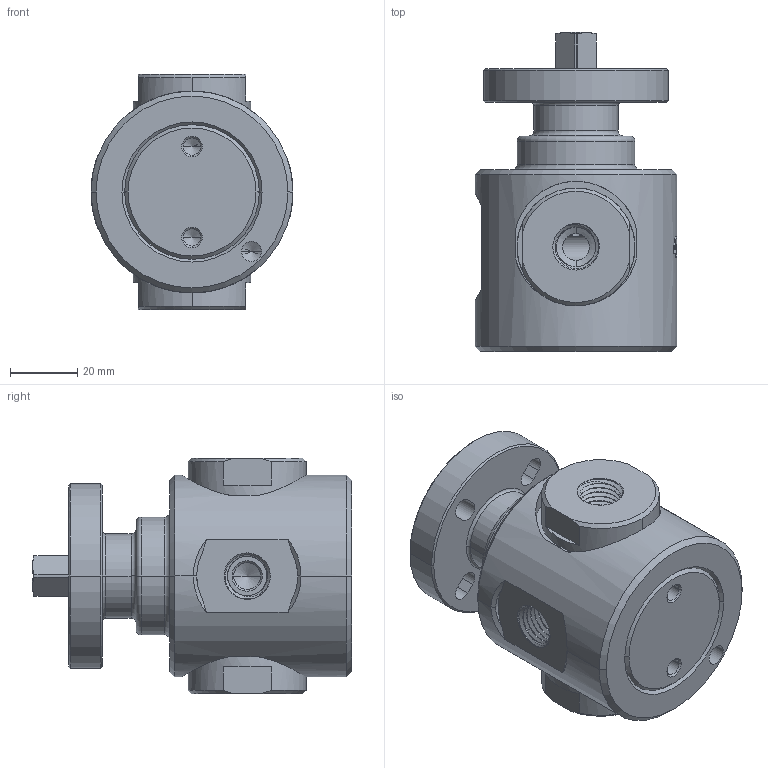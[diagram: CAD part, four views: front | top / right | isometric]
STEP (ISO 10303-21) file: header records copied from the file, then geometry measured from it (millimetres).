
FILE_DESCRIPTION((''),'2;1');
FILE_NAME('283001A604L0','2018-10-09T13:46:01',('UFFICIO TECNICO'),('CDM Tecnoconsulting'),'CREO PARAMETRIC BY PTC INC, 2018050','CREO PARAMETRIC BY PTC INC, 2018050','');
FILE_SCHEMA(('CONFIG_CONTROL_DESIGN','SHAPE_APPEARANCE_LAYERS_GROUPS'));
Length unit declared in the file: millimetre
Products named in the file (1): 283001A604L0
Bounding box: 60 x 94.8 x 70 mm (x, y, z)
Surface area: 43935.7 mm2 (no closed solid volume)
Topology: 0 solids, 22 shells, 456 faces, 1386 edges, 931 vertices
Faces by surface type: cylinder 168, plane 127, cone 79, bspline 44, extrusion 18, torus 16, sphere 4
Entity records: 39138 total; most frequent: CARTESIAN_POINT 21857, ORIENTED_EDGE 2438, DIRECTION 2135, PRESENTATION_STYLE_ASSIGNMENT 1602, STYLED_ITEM 1400, CURVE_STYLE 1390, EDGE_CURVE 1372, VERTEX_POINT 931
